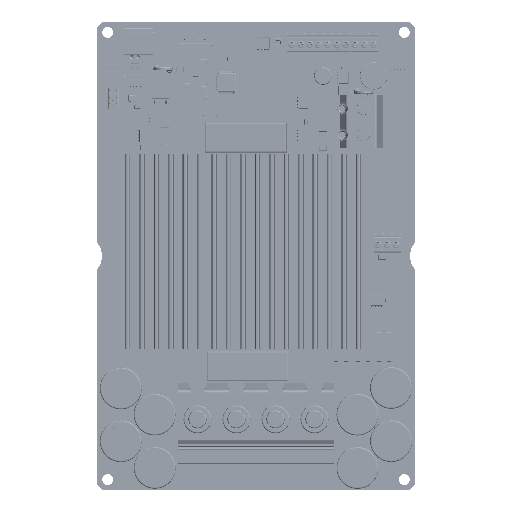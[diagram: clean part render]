
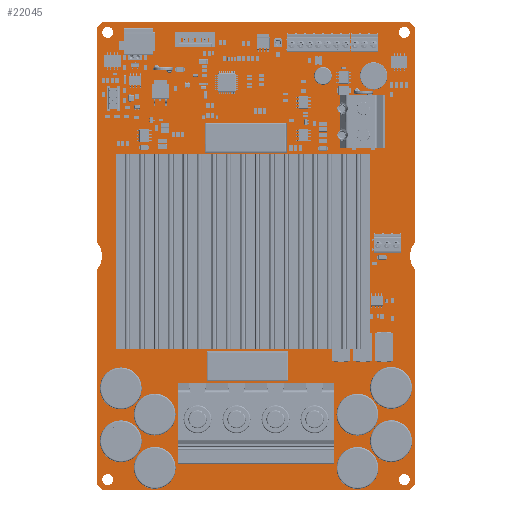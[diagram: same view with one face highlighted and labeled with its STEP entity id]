
A CAD part, top view. The second image highlights one B-rep face of the part: STEP entity #22045.
In plain terms, the highlighted planar face has unit normal (0, 0, 1).
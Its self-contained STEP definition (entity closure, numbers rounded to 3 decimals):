
#22045=ADVANCED_FACE('',(#45622,#45623,#45624,#45625,#45626),#45627,.T.);
#45622=FACE_BOUND('',#77974,.T.);
#45623=FACE_BOUND('',#77975,.T.);
#45624=FACE_BOUND('',#77976,.T.);
#45625=FACE_BOUND('',#77977,.T.);
#45626=FACE_OUTER_BOUND('',#77978,.T.);
#45627=PLANE('',#77979);
#77974=EDGE_LOOP('',(#132031));
#77975=EDGE_LOOP('',(#132032));
#77976=EDGE_LOOP('',(#132033));
#77977=EDGE_LOOP('',(#132034));
#77978=EDGE_LOOP('',(#132035,#132036,#132037,#132038,#132039,#132040,#132041,#132042,#132043,#132044,#132045,#132046));
#77979=AXIS2_PLACEMENT_3D('',#132047,#132048,#132049);
#132031=ORIENTED_EDGE('',*,*,#182644,.T.);
#132032=ORIENTED_EDGE('',*,*,#182647,.T.);
#132033=ORIENTED_EDGE('',*,*,#182650,.T.);
#132034=ORIENTED_EDGE('',*,*,#182653,.T.);
#132035=ORIENTED_EDGE('',*,*,#182656,.T.);
#132036=ORIENTED_EDGE('',*,*,#182657,.T.);
#132037=ORIENTED_EDGE('',*,*,#182658,.T.);
#132038=ORIENTED_EDGE('',*,*,#182659,.T.);
#132039=ORIENTED_EDGE('',*,*,#182660,.T.);
#132040=ORIENTED_EDGE('',*,*,#182661,.T.);
#132041=ORIENTED_EDGE('',*,*,#182662,.T.);
#132042=ORIENTED_EDGE('',*,*,#182663,.T.);
#132043=ORIENTED_EDGE('',*,*,#182664,.T.);
#132044=ORIENTED_EDGE('',*,*,#182665,.T.);
#132045=ORIENTED_EDGE('',*,*,#182666,.T.);
#132046=ORIENTED_EDGE('',*,*,#182667,.T.);
#132047=CARTESIAN_POINT('',(61.0,90.0,1.669));
#132048=DIRECTION('',(0.0,0.0,1.0));
#132049=DIRECTION('',(1.0,0.0,0.0));
#182644=EDGE_CURVE('',#219721,#219721,#219722,.T.);
#182647=EDGE_CURVE('',#219726,#219726,#219727,.T.);
#182650=EDGE_CURVE('',#219731,#219731,#219732,.T.);
#182653=EDGE_CURVE('',#219736,#219736,#219737,.T.);
#182656=EDGE_CURVE('',#219741,#219742,#219743,.T.);
#182657=EDGE_CURVE('',#219742,#219744,#219745,.T.);
#182658=EDGE_CURVE('',#219744,#219746,#219747,.T.);
#182659=EDGE_CURVE('',#219746,#219748,#219749,.T.);
#182660=EDGE_CURVE('',#219748,#219750,#219751,.T.);
#182661=EDGE_CURVE('',#219750,#219752,#219753,.T.);
#182662=EDGE_CURVE('',#219752,#219754,#219755,.T.);
#182663=EDGE_CURVE('',#219754,#219756,#219757,.T.);
#182664=EDGE_CURVE('',#219756,#219758,#219759,.T.);
#182665=EDGE_CURVE('',#219758,#219760,#219761,.T.);
#182666=EDGE_CURVE('',#219760,#219762,#219763,.T.);
#182667=EDGE_CURVE('',#219762,#219741,#219764,.T.);
#219721=VERTEX_POINT('',#276739);
#219722=CIRCLE('',#276740,2.1);
#219726=VERTEX_POINT('',#276744);
#219727=CIRCLE('',#276745,2.1);
#219731=VERTEX_POINT('',#276749);
#219732=CIRCLE('',#276750,2.1);
#219736=VERTEX_POINT('',#276754);
#219737=CIRCLE('',#276755,2.1);
#219741=VERTEX_POINT('',#276759);
#219742=VERTEX_POINT('',#276760);
#219743=LINE('',#276761,#276762);
#219744=VERTEX_POINT('',#276763);
#219745=LINE('',#276764,#276765);
#219746=VERTEX_POINT('',#276766);
#219747=LINE('',#276767,#276768);
#219748=VERTEX_POINT('',#276769);
#219749=LINE('',#276770,#276771);
#219750=VERTEX_POINT('',#276772);
#219751=CIRCLE('',#276773,8.018);
#219752=VERTEX_POINT('',#276774);
#219753=LINE('',#276775,#276776);
#219754=VERTEX_POINT('',#276777);
#219755=LINE('',#276778,#276779);
#219756=VERTEX_POINT('',#276780);
#219757=LINE('',#276781,#276782);
#219758=VERTEX_POINT('',#276783);
#219759=LINE('',#276784,#276785);
#219760=VERTEX_POINT('',#276786);
#219761=LINE('',#276787,#276788);
#219762=VERTEX_POINT('',#276789);
#219763=CIRCLE('',#276790,8.018);
#219764=LINE('',#276791,#276792);
#276739=CARTESIAN_POINT('',(115.9,4.0,1.669));
#276740=AXIS2_PLACEMENT_3D('',#325395,#325396,#325397);
#276744=CARTESIAN_POINT('',(1.9,4.0,1.669));
#276745=AXIS2_PLACEMENT_3D('',#325401,#325402,#325403);
#276749=CARTESIAN_POINT('',(1.9,176.0,1.669));
#276750=AXIS2_PLACEMENT_3D('',#325407,#325408,#325409);
#276754=CARTESIAN_POINT('',(115.9,176.0,1.669));
#276755=AXIS2_PLACEMENT_3D('',#325413,#325414,#325415);
#276759=CARTESIAN_POINT('',(0.0,2.0,1.669));
#276760=CARTESIAN_POINT('',(2.0,0.0,1.669));
#276761=CARTESIAN_POINT('',(1.0,1.0,1.669));
#276762=VECTOR('',#325419,1.0);
#276763=CARTESIAN_POINT('',(120.0,0.0,1.669));
#276764=CARTESIAN_POINT('',(61.0,0.0,1.669));
#276765=VECTOR('',#325420,1.0);
#276766=CARTESIAN_POINT('',(122.0,2.0,1.669));
#276767=CARTESIAN_POINT('',(121.0,1.0,1.669));
#276768=VECTOR('',#325421,1.0);
#276769=CARTESIAN_POINT('',(122.0,85.0,1.669));
#276770=CARTESIAN_POINT('',(122.0,43.5,1.669));
#276771=VECTOR('',#325422,1.0);
#276772=CARTESIAN_POINT('',(122.0,95.0,1.669));
#276773=AXIS2_PLACEMENT_3D('',#325423,#325424,#325425);
#276774=CARTESIAN_POINT('',(122.0,178.0,1.669));
#276775=CARTESIAN_POINT('',(122.0,136.5,1.669));
#276776=VECTOR('',#325426,1.0);
#276777=CARTESIAN_POINT('',(120.0,180.0,1.669));
#276778=CARTESIAN_POINT('',(121.0,179.0,1.669));
#276779=VECTOR('',#325427,1.0);
#276780=CARTESIAN_POINT('',(2.0,180.0,1.669));
#276781=CARTESIAN_POINT('',(61.0,180.0,1.669));
#276782=VECTOR('',#325428,1.0);
#276783=CARTESIAN_POINT('',(0.0,178.0,1.669));
#276784=CARTESIAN_POINT('',(1.0,179.0,1.669));
#276785=VECTOR('',#325429,1.0);
#276786=CARTESIAN_POINT('',(0.0,95.0,1.669));
#276787=CARTESIAN_POINT('',(0.0,136.5,1.669));
#276788=VECTOR('',#325430,1.0);
#276789=CARTESIAN_POINT('',(0.,85.0,1.669));
#276790=AXIS2_PLACEMENT_3D('',#325431,#325432,#325433);
#276791=CARTESIAN_POINT('',(0.,43.5,1.669));
#276792=VECTOR('',#325434,1.0);
#325395=CARTESIAN_POINT('',(118.0,4.0,1.669));
#325396=DIRECTION('',(-0.0,0.0,-1.0));
#325397=DIRECTION('',(-1.0,0.0,0.0));
#325401=CARTESIAN_POINT('',(4.0,4.0,1.669));
#325402=DIRECTION('',(-0.0,0.0,-1.0));
#325403=DIRECTION('',(-1.0,0.0,0.0));
#325407=CARTESIAN_POINT('',(4.0,176.0,1.669));
#325408=DIRECTION('',(-0.0,0.0,-1.0));
#325409=DIRECTION('',(-1.0,0.0,0.0));
#325413=CARTESIAN_POINT('',(118.0,176.0,1.669));
#325414=DIRECTION('',(-0.0,0.0,-1.0));
#325415=DIRECTION('',(-1.0,0.0,0.0));
#325419=DIRECTION('',(0.707,-0.707,0.0));
#325420=DIRECTION('',(1.0,0.0,0.0));
#325421=DIRECTION('',(0.707,0.707,0.0));
#325422=DIRECTION('',(0.0,1.0,0.0));
#325423=CARTESIAN_POINT('',(128.268,90.0,1.669));
#325424=DIRECTION('',(-0.0,0.0,-1.0));
#325425=DIRECTION('',(-0.782,-0.624,0.0));
#325426=DIRECTION('',(0.0,1.0,0.0));
#325427=DIRECTION('',(-0.707,0.707,0.0));
#325428=DIRECTION('',(-1.0,0.0,0.0));
#325429=DIRECTION('',(-0.707,-0.707,0.0));
#325430=DIRECTION('',(0.0,-1.0,0.0));
#325431=CARTESIAN_POINT('',(-6.268,90.0,1.669));
#325432=DIRECTION('',(0.0,0.0,-1.0));
#325433=DIRECTION('',(0.782,0.624,0.0));
#325434=DIRECTION('',(0.,-1.0,0.0));
